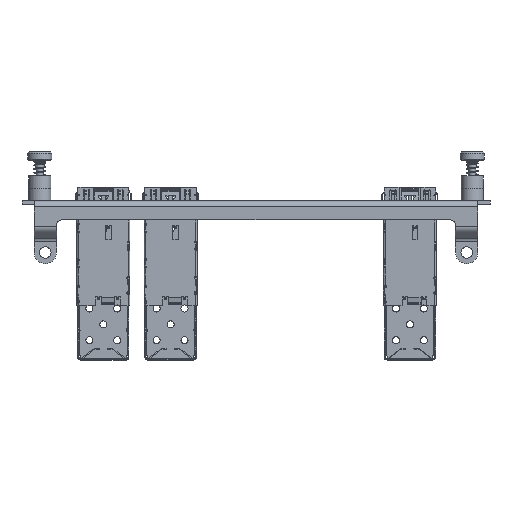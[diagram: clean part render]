
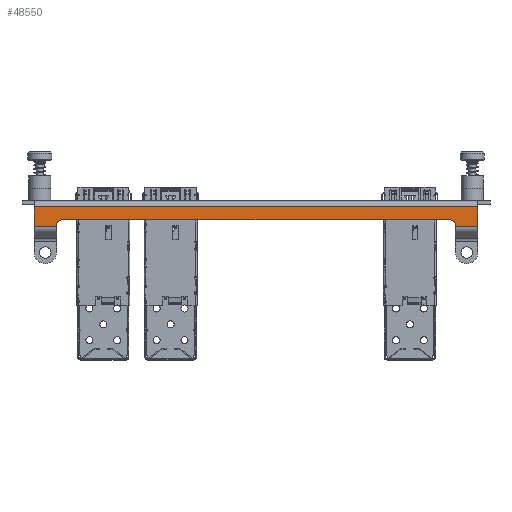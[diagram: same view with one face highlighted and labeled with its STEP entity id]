
A CAD part, front view. The second image highlights one B-rep face of the part: STEP entity #48550.
In plain terms, the highlighted planar face has unit normal (0, -1, 0) as drawn and (0, 0, 1) by its records, which use the part's own axes.
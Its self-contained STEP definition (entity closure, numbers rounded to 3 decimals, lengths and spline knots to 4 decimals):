
#4835=PLANE('',#50673);
#6002=FACE_OUTER_BOUND('',#7895,.T.);
#7895=EDGE_LOOP('',(#38524,#38525,#38526,#38527,#38528,#38529,#38530,#38531,
#38532,#38533));
#9824=LINE('',#67134,#15291);
#9828=LINE('',#67146,#15295);
#9846=LINE('',#67193,#15313);
#9888=LINE('',#67305,#15355);
#9916=LINE('',#67379,#15383);
#9965=LINE('',#67507,#15432);
#9966=LINE('',#67508,#15433);
#9967=LINE('',#67509,#15434);
#15291=VECTOR('',#54276,0.3937);
#15295=VECTOR('',#54288,0.3937);
#15313=VECTOR('',#54322,0.3937);
#15355=VECTOR('',#54402,0.3937);
#15383=VECTOR('',#54480,0.3937);
#15432=VECTOR('',#54627,0.3937);
#15433=VECTOR('',#54628,0.3937);
#15434=VECTOR('',#54629,0.3937);
#20756=CIRCLE('',#50566,0.06);
#20758=CIRCLE('',#50570,0.06);
#22644=VERTEX_POINT('',#67124);
#22645=VERTEX_POINT('',#67125);
#22648=VERTEX_POINT('',#67133);
#22650=VERTEX_POINT('',#67139);
#22652=VERTEX_POINT('',#67145);
#22672=VERTEX_POINT('',#67191);
#22673=VERTEX_POINT('',#67192);
#22723=VERTEX_POINT('',#67302);
#22724=VERTEX_POINT('',#67304);
#22745=VERTEX_POINT('',#67377);
#30113=EDGE_CURVE('',#22644,#22645,#20756,.T.);
#30117=EDGE_CURVE('',#22648,#22645,#9824,.T.);
#30120=EDGE_CURVE('',#22648,#22650,#20758,.T.);
#30123=EDGE_CURVE('',#22652,#22650,#9828,.T.);
#30145=EDGE_CURVE('',#22672,#22673,#9846,.T.);
#30202=EDGE_CURVE('',#22724,#22723,#9888,.T.);
#30241=EDGE_CURVE('',#22644,#22745,#9916,.T.);
#30304=EDGE_CURVE('',#22673,#22724,#9965,.T.);
#30305=EDGE_CURVE('',#22652,#22723,#9966,.T.);
#30306=EDGE_CURVE('',#22672,#22745,#9967,.T.);
#38524=ORIENTED_EDGE('',*,*,#30145,.T.);
#38525=ORIENTED_EDGE('',*,*,#30304,.T.);
#38526=ORIENTED_EDGE('',*,*,#30202,.T.);
#38527=ORIENTED_EDGE('',*,*,#30305,.F.);
#38528=ORIENTED_EDGE('',*,*,#30123,.T.);
#38529=ORIENTED_EDGE('',*,*,#30120,.F.);
#38530=ORIENTED_EDGE('',*,*,#30117,.T.);
#38531=ORIENTED_EDGE('',*,*,#30113,.F.);
#38532=ORIENTED_EDGE('',*,*,#30241,.T.);
#38533=ORIENTED_EDGE('',*,*,#30306,.F.);
#48550=ADVANCED_FACE('',(#6002),#4835,.T.);
#50566=AXIS2_PLACEMENT_3D('',#67126,#54268,#54269);
#50570=AXIS2_PLACEMENT_3D('',#67140,#54281,#54282);
#50673=AXIS2_PLACEMENT_3D('',#67506,#54625,#54626);
#54268=DIRECTION('center_axis',(0.,0.,
1.));
#54269=DIRECTION('ref_axis',(0.707,0.707,0.));
#54276=DIRECTION('',(1.,0.,0.));
#54281=DIRECTION('center_axis',(0.,0.,
1.));
#54282=DIRECTION('ref_axis',(-0.707,0.707,0.));
#54288=DIRECTION('',(0.,1.,0.));
#54322=DIRECTION('',(0.,1.,0.));
#54402=DIRECTION('',(0.,-1.,0.));
#54480=DIRECTION('',(0.,-1.,0.));
#54625=DIRECTION('center_axis',(0.,0.,
1.));
#54626=DIRECTION('ref_axis',(0.,-1.,0.));
#54627=DIRECTION('',(-1.,0.,0.));
#54628=DIRECTION('',(-1.,0.,0.));
#54629=DIRECTION('',(-1.,0.,0.));
#67124=CARTESIAN_POINT('',(2.225,-0.2371,0.4925));
#67125=CARTESIAN_POINT('',(2.165,-0.1771,0.4925));
#67126=CARTESIAN_POINT('Origin',(2.165,-0.2371,0.4925));
#67133=CARTESIAN_POINT('',(-2.165,-0.1771,0.4925));
#67134=CARTESIAN_POINT('',(-1.1125,-0.1771,0.4925));
#67139=CARTESIAN_POINT('',(-2.225,-0.2371,0.4925));
#67140=CARTESIAN_POINT('Origin',(-2.165,-0.2371,0.4925));
#67145=CARTESIAN_POINT('',(-2.225,-0.2468,0.4925));
#67146=CARTESIAN_POINT('',(-2.225,-0.3941,0.4925));
#67191=CARTESIAN_POINT('',(2.475,-0.2468,0.4925));
#67192=CARTESIAN_POINT('',(2.475,-0.0313,0.4925));
#67193=CARTESIAN_POINT('',(2.475,-0.3941,0.4925));
#67302=CARTESIAN_POINT('',(-2.475,-0.2468,0.4925));
#67304=CARTESIAN_POINT('',(-2.475,-0.0313,0.4925));
#67305=CARTESIAN_POINT('',(-2.475,-0.1506,0.4925));
#67377=CARTESIAN_POINT('',(2.225,-0.2468,0.4925));
#67379=CARTESIAN_POINT('',(2.225,-0.1506,0.4925));
#67506=CARTESIAN_POINT('Origin',(0.,-0.124,0.4925));
#67507=CARTESIAN_POINT('',(0.,-0.0313,0.4925));
#67508=CARTESIAN_POINT('',(1.305,-0.2468,0.4925));
#67509=CARTESIAN_POINT('',(1.305,-0.2468,0.4925));
